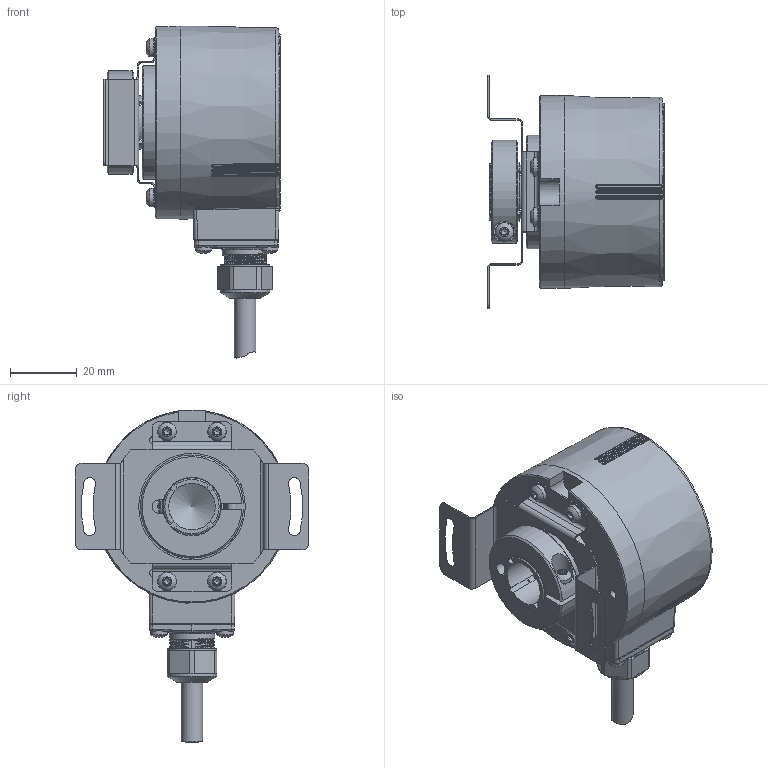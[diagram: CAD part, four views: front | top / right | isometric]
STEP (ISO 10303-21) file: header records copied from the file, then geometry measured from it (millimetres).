
FILE_DESCRIPTION( ( 'Unknown' ), '1' );
FILE_NAME( '//emea.baumernet.org/de05d/RD/caddy/k/GESAMT/EIL580/EIL580/3D/STEP/MarCom/EIL580-BT14.5Rx.xxxxx.A.stp', 'Unknown', ( 'Unknown' ), ( 'Unknown' ), 'PSStep 19.0.9', 'Unknown', ' ' );
FILE_SCHEMA( ( 'AUTOMOTIVE_DESIGN { 1 0 10303 214 1 1 1 1 }' ) );
Length unit declared in the file: millimetre
Products named in the file (2): Assem1; 1_3_0
Assembly tree (1 placements, depth 2):
  Assem1
    1_3_0
Bounding box: 53 x 70 x 99.65 mm (x, y, z)
Volume: 111683.6 mm3; surface area: 25867.5 mm2
Topology: 1 solids, 20 shells, 955 faces, 2454 edges, 1547 vertices
Faces by surface type: cylinder 362, plane 302, bspline 121, cone 65, torus 50, sphere 40, extrusion 15
Full cylindrical faces by diameter (mm): 2.46 x15, 2.5 x4, 2.998 x1, 3 x4, 3.2 x5, 5 x4, 6.5 x1, 7.5 x1, 7.7 x1, 8.2 x1, 10 x1, 10.5 x1, 12.85 x1, 13.35 x1, 13.8 x1, 14 x1, 14.8 x2, 16.8 x1, 19 x1, 19.312 x1, 23.904 x1, 24 x1, 26 x1, 32 x1, 34 x1, 58 x1
Entity records: 50071 total; most frequent: CARTESIAN_POINT 20774, ORIENTED_EDGE 4516, DIRECTION 4299, EDGE_CURVE 2258, AXIS2_PLACEMENT_3D 1830, VERTEX_POINT 1500, EDGE_LOOP 1167, FACE_OUTER_BOUND 1039
